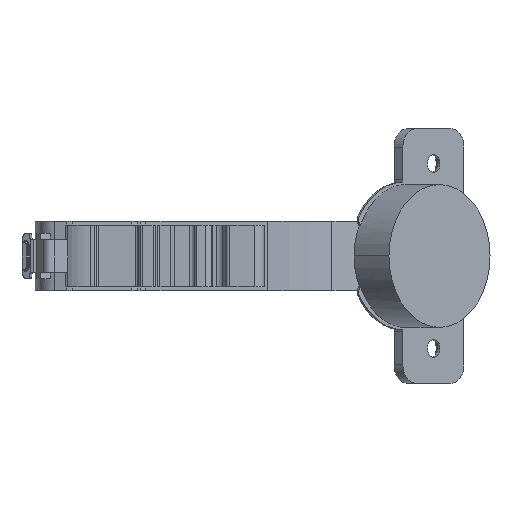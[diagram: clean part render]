
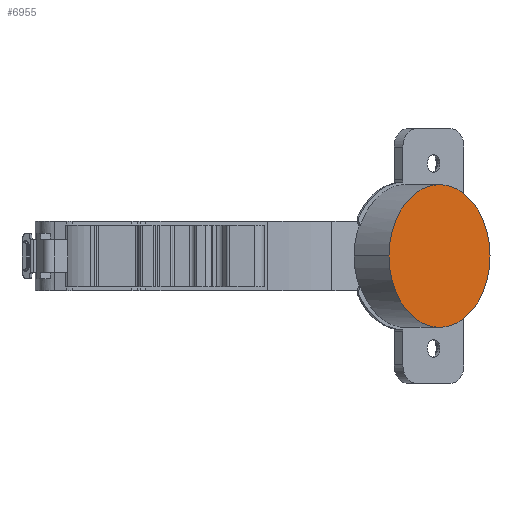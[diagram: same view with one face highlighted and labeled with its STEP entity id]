
A CAD part, front view. The second image highlights one B-rep face of the part: STEP entity #6955.
In plain terms, the highlighted planar face has unit normal (0.707, -0.707, 0).
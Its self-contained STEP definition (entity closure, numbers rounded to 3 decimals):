
#5 = PLANE ( 'NONE',  #5866 ) ;
#13 = DIRECTION ( 'NONE',  ( 0.707, 0.707, 0. ) ) ;
#38 = AXIS2_PLACEMENT_3D ( 'NONE', #3419, #5564, #13 ) ;
#581 = EDGE_CURVE ( 'NONE', #4817, #7008, #3919, .T. ) ;
#855 = AXIS2_PLACEMENT_3D ( 'NONE', #7014, #959, #8562 ) ;
#959 = DIRECTION ( 'NONE',  ( 0.707, -0.707, 0. ) ) ;
#3371 = CARTESIAN_POINT ( 'NONE',  ( 58.611, 23.778, 0. ) ) ;
#3419 = CARTESIAN_POINT ( 'NONE',  ( 58.611, 23.778, 0. ) ) ;
#3919 = CIRCLE ( 'NONE', #38, 17.4 ) ;
#4817 = VERTEX_POINT ( 'NONE', #8111 ) ;
#5422 = DIRECTION ( 'NONE',  ( 0.707, -0.707, 0. ) ) ;
#5564 = DIRECTION ( 'NONE',  ( 0.707, -0.707, 0. ) ) ;
#5866 = AXIS2_PLACEMENT_3D ( 'NONE', #3371, #5422, #8187 ) ;
#6101 = FACE_OUTER_BOUND ( 'NONE', #8626, .T. ) ;
#6296 = ORIENTED_EDGE ( 'NONE', *, *, #7777, .T. ) ;
#6955 = ADVANCED_FACE ( 'NONE', ( #6101 ), #5, .T. ) ;
#7008 = VERTEX_POINT ( 'NONE', #8366 ) ;
#7014 = CARTESIAN_POINT ( 'NONE',  ( 58.611, 23.778, 0. ) ) ;
#7143 = ORIENTED_EDGE ( 'NONE', *, *, #581, .T. ) ;
#7777 = EDGE_CURVE ( 'NONE', #7008, #4817, #8952, .T. ) ;
#8111 = CARTESIAN_POINT ( 'NONE',  ( 70.915, 36.082, 0. ) ) ;
#8187 = DIRECTION ( 'NONE',  ( 0., 0., -1. ) ) ;
#8366 = CARTESIAN_POINT ( 'NONE',  ( 46.307, 11.475, 0. ) ) ;
#8562 = DIRECTION ( 'NONE',  ( 0.707, 0.707, 0. ) ) ;
#8626 = EDGE_LOOP ( 'NONE', ( #6296, #7143 ) ) ;
#8952 = CIRCLE ( 'NONE', #855, 17.4 ) ;
